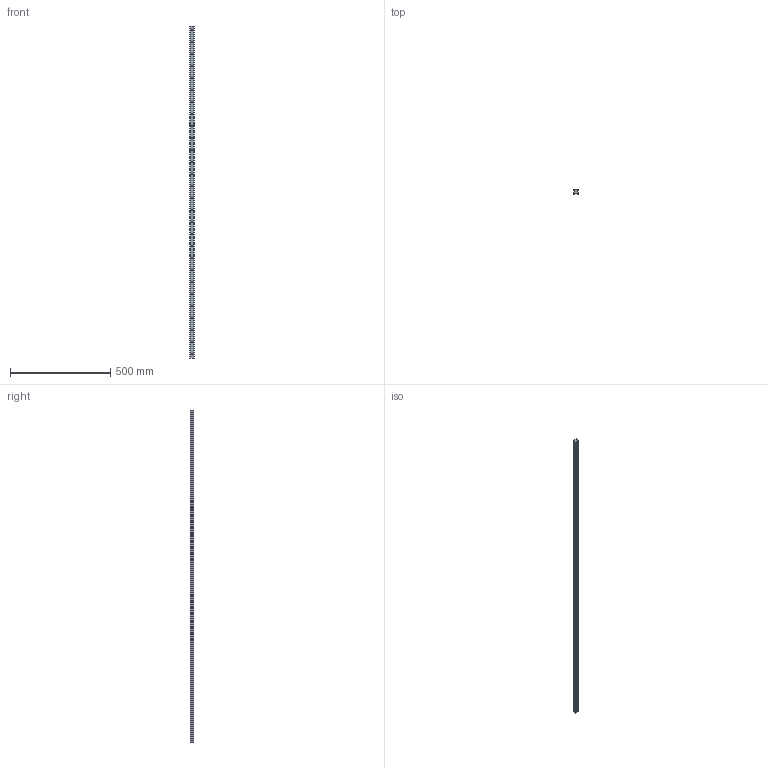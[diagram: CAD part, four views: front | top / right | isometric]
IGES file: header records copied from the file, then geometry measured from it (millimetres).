
Start section: SolidWorks IGES file using analytic representation for surfaces
Global section: file name: C:\Users\IanO\Desktop\L1016_v2\L1016.BL25_v2\L1016.BL25_v2_20160611_IGES\L1016.BL25-1660.igs; native system: SolidWorks 2017; preprocessor: SolidWorks 2017; author: IanO; date: 190612.130838; units: millimetre
Bounding box: 23 x 19.2 x 1660 mm (x, y, z)
Surface area: 157467.4 mm2 (no closed solid volume)
Topology: 0 solids, 0 shells, 166 faces, 4200 edges, 4200 vertices
Faces by surface type: revolution 116, bspline 50
